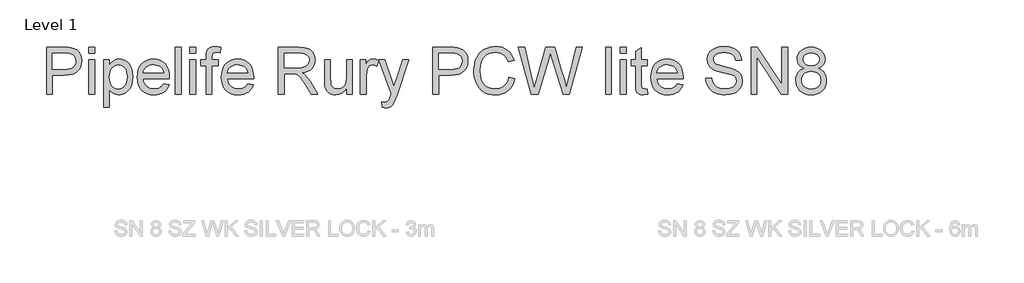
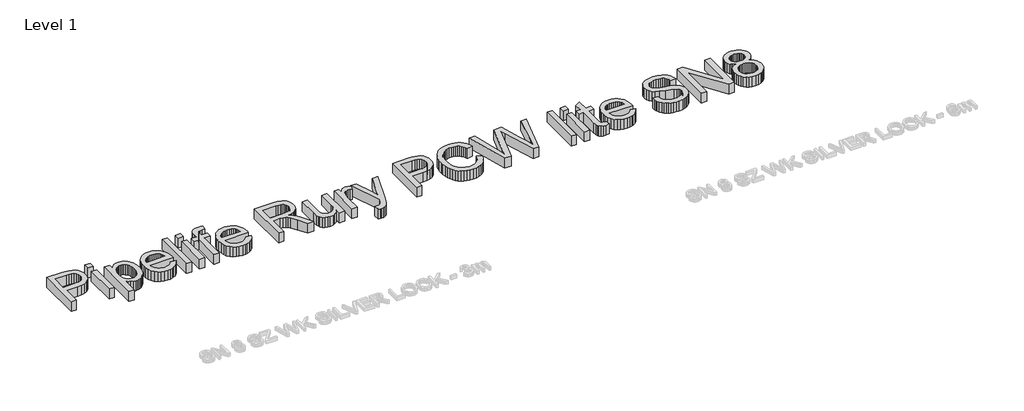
# One storey, part 7 of 8: 1 proxy.
"""IFC4 building model written with IfcOpenShell, lengths in millimetres."""

from ifc_helpers import new_model, si_unit, origin, origin_with_axes, place, context, project, spatial, polyline, outline, extrude, element, save

model = new_model("IFC4")

# Units and contexts
model_context = context("Model", 3, world=origin())
ifc_project = project(units=[si_unit("LENGTHUNIT", "METRE", prefix="MILLI")], contexts=[model_context])

# Site, building, storey
site = spatial("IfcSite", under=ifc_project)
building = spatial("IfcBuilding", under=site)
storey = spatial("IfcBuildingStorey", under=building, Name="Level 1", Elevation=0.0)

# Proxy
placement = place(None, origin())
element("IfcBuildingElementProxy", 1, Name="600mm Arial", ObjectType="600mm Arial", at=placement, inside=storey, context=model_context, shape_type="SweptSolid", body=[
    extrude(outline(polyline([(-16966.7426717, 3990.4626098), (-16966.7426717, 4593.2004707), (-16743.3647242, 4593.2004707), (-16691.3462101, 4591.7657309), (-16653.3072118, 4587.4615116), (-16613.152892, 4576.7377514), (-16580.0986947, 4559.2817508), (-16553.4824324, 4534.3025633), (-16532.6419174, 4501.0092427), (-16519.1774363, 4461.7378398), (-16514.689276, 4418.824405), (-16517.7197039, 4381.8246734), (-16526.8109877, 4347.7863917), (-16541.9631274, 4316.7095602), (-16563.176123, 4288.5941787), (-16592.2985814, 4265.2888543), (-16631.1791098, 4248.642194), (-16679.8177081, 4238.6541979), (-16738.2143763, 4235.3248658), (-16891.4004391, 4235.3248658), (-16891.4004391, 3990.4626098), (-16966.7426717, 3990.4626098)]), holes=[polyline([(-16891.4004391, 4310.6670984), (-16733.7997923, 4310.6670984), (-16697.5634158, 4312.3961438), (-16666.992422, 4317.5832799), (-16642.0868109, 4326.2285068), (-16622.8465826, 4338.3318245), (-16608.4899877, 4353.5713361), (-16598.2352771, 4371.625145), (-16592.0824507, 4392.4932512), (-16590.0315086, 4416.1756547), (-16594.8691569, 4450.0207982), (-16609.3821016, 4478.568441), (-16631.767721, 4500.0527496), (-16660.2233933, 4512.7078902), (-16689.2860709, 4516.5706511), (-16735.5656259, 4517.8582381), (-16891.4004391, 4517.8582381), (-16891.4004391, 4310.6670984)])]), origin_with_axes(), (0.0, 0.0, 1.0), 150.0),
    extrude(outline(polyline([(-16420.5114852, 3990.4626098), (-16420.5114852, 4433.0982264), (-16345.1692526, 4433.0982264), (-16345.1692526, 3990.4626098), (-16420.5114852, 3990.4626098)])), origin_with_axes(), (0.0, 0.0, 1.0), 150.0),
    extrude(outline(polyline([(-16420.5114852, 4517.8582381), (-16420.5114852, 4593.2004707), (-16345.1692526, 4593.2004707), (-16345.1692526, 4517.8582381), (-16420.5114852, 4517.8582381)])), origin_with_axes(), (0.0, 0.0, 1.0), 150.0),
    extrude(outline(polyline([(-16232.1559037, 3820.9425865), (-16232.1559037, 4433.0982264), (-16156.8136711, 4433.0982264), (-16156.8136711, 4359.2275218), (-16132.2391538, 4395.6662334), (-16104.7215806, 4421.6938846), (-16072.6422706, 4437.3104753), (-16034.3825431, 4442.5160055), (-16008.1065716, 4440.6949896), (-15983.4308868, 4435.231942), (-15960.3554886, 4426.1268626), (-15938.8803772, 4413.3797515), (-15919.4746019, 4397.3217024), (-15902.6072124, 4378.2838091), (-15888.2782087, 4356.2660717), (-15876.4875908, 4331.2684902), (-15860.7054532, 4275.7550971), (-15855.4447407, 4215.1649325), (-15861.3860349, 4150.730401), (-15868.8126526, 4121.0653166), (-15879.2099175, 4093.1016865), (-15892.4352753, 4067.570676), (-15908.3461716, 4045.2034507), (-15926.9426064, 4026.0000106), (-15948.2245798, 4009.9603556), (-15971.1482267, 3997.3098135), (-15994.6696817, 3988.273712), (-16018.788945, 3982.8520511), (-16043.5060166, 3981.0448308), (-16078.1421064, 3985.882479), (-16109.0625881, 4000.3954237), (-16135.5316977, 4022.3027965), (-16156.8136711, 4049.3237291), (-16156.8136711, 3820.9425865), (-16232.1559037, 3820.9425865)]), holes=[polyline([(-16156.8136711, 4208.248751), (-16154.7765246, 4171.9387981), (-16148.6650849, 4140.7056167), (-16138.4793522, 4114.5492068), (-16124.2193263, 4093.4695685), (-16107.0530327, 4077.2459725), (-16088.1484967, 4065.6576896), (-16067.5057182, 4058.7047199), (-16045.1246974, 4056.3870634), (-16022.4217797, 4058.7874934), (-16001.4019222, 4065.9887834), (-15982.0651249, 4077.9909335), (-15964.4113876, 4094.7939437), (-15949.7007063, 4116.6369371), (-15939.1930769, 4143.7590372), (-15932.8884992, 4176.1602439), (-15930.7869733, 4213.8405573), (-15932.8379154, 4249.8378105), (-15938.9907418, 4281.0158096), (-15949.2454524, 4307.3745546), (-15963.6020472, 4328.9140454), (-15980.8097276, 4345.6526762), (-15999.6176946, 4357.608841), (-16020.0259482, 4364.7825399), (-16042.0344886, 4367.1737729), (-16063.9740511, 4364.6307886), (-16084.6168295, 4357.0018357), (-16103.962824, 4344.2869143), (-16122.0120344, 4326.4860242), (-16137.2377504, 4303.8382889), (-16148.1132619, 4276.5828316), (-16154.6385688, 4244.7196523), (-16156.8136711, 4208.248751)])]), origin_with_axes(), (0.0, 0.0, 1.0), 150.0),
    extrude(outline(polyline([(-15460.7809362, 4122.3115169), (-15386.9102316, 4112.8937378), (-15398.2363985, 4083.3068284), (-15413.5264939, 4057.233192), (-15432.7805179, 4034.6728286), (-15455.9984703, 4015.6257383), (-15482.9412279, 4000.4965913), (-15513.3696674, 3989.6900576), (-15547.2837889, 3983.2061375), (-15584.6835922, 3981.0448308), (-15631.4321967, 3984.7742345), (-15673.0856356, 3995.9624457), (-15709.6439089, 4014.6094643), (-15741.1070165, 4040.7152904), (-15766.4081008, 4073.553357), (-15784.4803038, 4112.3970971), (-15795.3236256, 4157.2465109), (-15798.9380662, 4208.1015982), (-15795.2868374, 4260.6811323), (-15784.333151, 4307.0250667), (-15766.077007, 4347.1334012), (-15740.5184054, 4381.0061359), (-15709.1380712, 4407.9167039), (-15673.4167294, 4427.1385381), (-15633.3543802, 4438.6716387), (-15588.9510233, 4442.5160055), (-15545.9778078, 4438.6808357), (-15507.1156735, 4427.1753263), (-15472.3646205, 4407.9994773), (-15441.7246489, 4381.1532887), (-15416.7132717, 4347.3541304), (-15398.8480023, 4307.3193723), (-15388.1288407, 4261.0490143), (-15384.5557868, 4208.5430566), (-15384.9972452, 4188.2359704), (-15723.5958336, 4188.2359704), (-15719.2318334, 4158.1708144), (-15710.5544168, 4131.8396606), (-15697.5635839, 4109.242509), (-15680.2593345, 4090.3793597), (-15659.598162, 4075.5077301), (-15636.5365594, 4064.8851375), (-15611.0745268, 4058.5115819), (-15583.2120642, 4056.3870634), (-15543.1129267, 4060.3234007), (-15509.3413596, 4072.1324128), (-15481.8973627, 4092.5498635), (-15460.7809362, 4122.3115169)]), holes=[polyline([(-15723.5958336, 4263.5782031), (-15459.8980194, 4263.5782031), (-15470.0883507, 4303.3830349), (-15478.8531392, 4319.0364138), (-15490.064343, 4331.8571014), (-15510.6105525, 4347.3081452), (-15533.9894533, 4358.344605), (-15560.2010454, 4364.9664809), (-15589.2453289, 4367.1737729), (-15615.7374311, 4365.4125378), (-15640.0314384, 4360.1288327), (-15662.1273507, 4351.3226574), (-15682.0251681, 4338.9940121), (-15698.7224122, 4323.7131137), (-15711.2166044, 4306.0501794), (-15719.5077449, 4286.0052092), (-15723.5958336, 4263.5782031)])]), origin_with_axes(), (0.0, 0.0, 1.0), 150.0),
    extrude(outline(polyline([(-15309.2135542, 3990.4626098), (-15309.2135542, 4593.2004707), (-15233.8713216, 4593.2004707), (-15233.8713216, 3990.4626098), (-15309.2135542, 3990.4626098)])), origin_with_axes(), (0.0, 0.0, 1.0), 150.0),
    extrude(outline(polyline([(-15120.8579727, 4517.8582381), (-15120.8579727, 4593.2004707), (-15045.5157401, 4593.2004707), (-15045.5157401, 4517.8582381), (-15120.8579727, 4517.8582381)])), origin_with_axes(), (0.0, 0.0, 1.0), 150.0),
    extrude(outline(polyline([(-15120.8579727, 3990.4626098), (-15120.8579727, 4433.0982264), (-15045.5157401, 4433.0982264), (-15045.5157401, 3990.4626098), (-15120.8579727, 3990.4626098)])), origin_with_axes(), (0.0, 0.0, 1.0), 150.0),
    extrude(outline(polyline([(-14913.666833, 3990.4626098), (-14913.666833, 4357.7559938), (-14979.5912865, 4357.7559938), (-14979.5912865, 4433.0982264), (-14913.666833, 4433.0982264), (-14913.666833, 4477.6855242), (-14911.6802702, 4514.5840884), (-14905.7205819, 4540.519769), (-14890.5638437, 4565.5725329), (-14867.1665488, 4585.4013724), (-14834.4250512, 4598.3140305), (-14791.235705, 4602.6182498), (-14758.5309956, 4600.5581106), (-14722.5153483, 4594.3776931), (-14733.5518082, 4523.74435), (-14776.9618836, 4527.2760172), (-14805.6014969, 4524.1490202), (-14824.418661, 4514.7680294), (-14834.8481155, 4496.8521762), (-14838.3246004, 4468.1205924), (-14838.3246004, 4433.0982264), (-14753.5645887, 4433.0982264), (-14753.5645887, 4357.7559938), (-14838.3246004, 4357.7559938), (-14838.3246004, 3990.4626098), (-14913.666833, 3990.4626098)])), origin_with_axes(), (0.0, 0.0, 1.0), 150.0),
    extrude(outline(polyline([(-14377.7363424, 4122.3115169), (-14303.8656378, 4112.8937378), (-14315.1918047, 4083.3068284), (-14330.4819001, 4057.233192), (-14349.7359241, 4034.6728286), (-14372.9538765, 4015.6257383), (-14399.8966341, 4000.4965913), (-14430.3250736, 3989.6900576), (-14464.2391951, 3983.2061375), (-14501.6389984, 3981.0448308), (-14548.3876029, 3984.7742345), (-14590.0410418, 3995.9624457), (-14626.5993151, 4014.6094643), (-14658.0624227, 4040.7152904), (-14683.363507, 4073.553357), (-14701.43571, 4112.3970971), (-14712.2790318, 4157.2465109), (-14715.8934724, 4208.1015982), (-14712.2422436, 4260.6811323), (-14701.2885572, 4307.0250667), (-14683.0324132, 4347.1334012), (-14657.4738116, 4381.0061359), (-14626.0934774, 4407.9167039), (-14590.3721356, 4427.1385381), (-14550.3097864, 4438.6716387), (-14505.9064295, 4442.5160055), (-14462.933214, 4438.6808357), (-14424.0710797, 4427.1753263), (-14389.3200267, 4407.9994773), (-14358.6800551, 4381.1532887), (-14333.6686779, 4347.3541304), (-14315.8034085, 4307.3193723), (-14305.0842469, 4261.0490143), (-14301.511193, 4208.5430566), (-14301.9526514, 4188.2359704), (-14640.5512398, 4188.2359704), (-14636.1872396, 4158.1708144), (-14627.509823, 4131.8396606), (-14614.5189901, 4109.242509), (-14597.2147407, 4090.3793597), (-14576.5535682, 4075.5077301), (-14553.4919656, 4064.8851375), (-14528.029933, 4058.5115819), (-14500.1674704, 4056.3870634), (-14460.0683329, 4060.3234007), (-14426.2967658, 4072.1324128), (-14398.8527689, 4092.5498635), (-14377.7363424, 4122.3115169)]), holes=[polyline([(-14640.5512398, 4263.5782031), (-14376.8534256, 4263.5782031), (-14387.0437569, 4303.3830349), (-14395.8085454, 4319.0364138), (-14407.0197492, 4331.8571014), (-14427.5659587, 4347.3081452), (-14450.9448595, 4358.344605), (-14477.1564516, 4364.9664809), (-14506.2007351, 4367.1737729), (-14532.6928373, 4365.4125378), (-14556.9868446, 4360.1288327), (-14579.0827569, 4351.3226574), (-14598.9805743, 4338.9940121), (-14615.6778184, 4323.7131137), (-14628.1720106, 4306.0501794), (-14636.4631511, 4286.0052092), (-14640.5512398, 4263.5782031)])]), origin_with_axes(), (0.0, 0.0, 1.0), 150.0),
    extrude(outline(polyline([(-13981.3067044, 3990.4626098), (-13981.3067044, 4593.2004707), (-13721.5820158, 4593.2004707), (-13651.7764072, 4589.1353747), (-13600.9902978, 4576.9400865), (-13581.3913845, 4567.246396), (-13563.8710045, 4554.4257084), (-13548.4291577, 4538.4780239), (-13535.0658443, 4519.4033425), (-13524.2823033, 4498.2271351), (-13516.579774, 4475.974873), (-13511.9582565, 4452.6465559), (-13510.4177506, 4428.2421841), (-13512.9699319, 4397.2849142), (-13520.626476, 4368.8660301), (-13533.3873827, 4342.9855317), (-13551.2526521, 4319.6434191), (-13574.4522104, 4299.5846533), (-13603.2159839, 4283.5541954), (-13637.5439726, 4271.5520453), (-13677.4361764, 4263.5782031), (-13652.6041417, 4247.3546071), (-13634.6147122, 4231.3517403), (-13603.7494128, 4194.7474818), (-13573.546301, 4153.8022157), (-13473.0409399, 3990.4626098), (-13560.5968547, 3990.4626098), (-13639.0292961, 4115.3953354), (-13695.6831234, 4198.0952079), (-13716.7443676, 4222.2098727), (-13735.4879552, 4237.1642758), (-13771.3196616, 4251.5116736), (-13815.0240426, 4254.160424), (-13905.9644718, 4254.160424), (-13905.9644718, 3990.4626098), (-13981.3067044, 3990.4626098)]), holes=[polyline([(-13905.9644718, 4329.5026566), (-13737.3273652, 4329.5026566), (-13688.8957006, 4332.1698011), (-13651.3165547, 4340.1712344), (-13623.0264293, 4354.0403857), (-13602.4618258, 4374.3106836), (-13589.9354439, 4398.8300186), (-13585.7599832, 4425.4462809), (-13587.7511445, 4444.7141004), (-13593.7246284, 4462.1976922), (-13603.6804349, 4477.8970564), (-13617.618564, 4491.8121929), (-13635.8609124, 4503.2073377), (-13658.729377, 4511.3467268), (-13686.2239576, 4516.2303603), (-13718.3446543, 4517.8582381), (-13905.9644718, 4517.8582381), (-13905.9644718, 4329.5026566)])]), origin_with_axes(), (0.0, 0.0, 1.0), 150.0),
    extrude(outline(polyline([(-13105.4532503, 3990.4626098), (-13105.4532503, 4066.5406064), (-13132.7133061, 4029.1362046), (-13164.4615223, 4002.4187747), (-13200.6978989, 3986.3883167), (-13241.4224357, 3981.0448308), (-13278.1186647, 3984.7972271), (-13312.276508, 3996.0544162), (-13340.9345154, 4012.9769879), (-13361.131237, 4033.7255325), (-13374.7244767, 4058.9254491), (-13383.5720387, 4089.2021373), (-13387.9866226, 4159.2468692), (-13387.9866226, 4433.0982264), (-13312.64439, 4433.0982264), (-13312.64439, 4194.7106936), (-13311.5039558, 4147.033187), (-13308.0826532, 4117.896933), (-13297.1013757, 4092.273952), (-13278.2842116, 4072.7946004), (-13252.8819599, 4060.4889476), (-13222.1454192, 4056.3870634), (-13189.6430449, 4060.5809181), (-13159.237598, 4073.1624823), (-13134.16644, 4092.9729278), (-13117.6669325, 4118.8534261), (-13108.5066709, 4154.2988564), (-13105.4532503, 4202.8040974), (-13105.4532503, 4433.0982264), (-13030.1110177, 4433.0982264), (-13030.1110177, 3990.4626098), (-13105.4532503, 3990.4626098)])), origin_with_axes(), (0.0, 0.0, 1.0), 150.0),
    extrude(outline(polyline([(-12926.5154479, 3990.4626098), (-12926.5154479, 4433.0982264), (-12860.5909943, 4433.0982264), (-12860.5909943, 4367.6152313), (-12836.2372062, 4405.5806532), (-12813.7964045, 4427.9478785), (-12791.2820264, 4438.8739738), (-12766.7075091, 4442.5160055), (-12729.1835456, 4436.70347), (-12691.0709709, 4419.2658634), (-12716.2340994, 4351.7227291), (-12742.7216031, 4363.3110119), (-12769.2091067, 4367.1737729), (-12791.7050907, 4363.4581647), (-12811.8098418, 4352.3113403), (-12828.0518318, 4334.5794281), (-12838.959533, 4311.1085568), (-12848.1197947, 4269.0228566), (-12851.1732152, 4223.1111836), (-12851.1732152, 3990.4626098), (-12926.5154479, 3990.4626098)])), origin_with_axes(), (0.0, 0.0, 1.0), 150.0),
    extrude(outline(polyline([(-12643.9820756, 3820.9425865), (-12653.3998546, 3893.4889159), (-12615.1401271, 3886.86704), (-12595.016982, 3888.9455733), (-12579.3819972, 3895.1811731), (-12567.2051032, 3905.1323811), (-12557.4562303, 3918.3577388), (-12536.8548386, 3973.8343436), (-12530.9687266, 3992.0812906), (-12691.0709709, 4433.0982264), (-12611.60846, 4433.0982264), (-12526.7012955, 4187.3530537), (-12497.1235831, 4089.0549845), (-12467.5458707, 4175.8751354), (-12380.2842614, 4433.0982264), (-12301.4103616, 4433.0982264), (-12455.4793412, 3979.8676084), (-12495.5049023, 3881.5695393), (-12515.9959294, 3850.1892051), (-12539.2092833, 3828.4473792), (-12566.1750336, 3815.7554503), (-12597.9232498, 3811.5248074), (-12619.7386521, 3813.8792521), (-12643.9820756, 3820.9425865)])), origin_with_axes(), (0.0, 0.0, 1.0), 150.0),
    extrude(outline(polyline([(-11994.1553193, 3990.4626098), (-11994.1553193, 4593.2004707), (-11770.7773718, 4593.2004707), (-11718.7588577, 4591.7657309), (-11680.7198594, 4587.4615116), (-11640.5655396, 4576.7377514), (-11607.5113423, 4559.2817508), (-11580.89508, 4534.3025633), (-11560.054565, 4501.0092427), (-11546.5900839, 4461.7378398), (-11542.1019236, 4418.824405), (-11545.1323515, 4381.8246734), (-11554.2236353, 4347.7863917), (-11569.375775, 4316.7095602), (-11590.5887706, 4288.5941787), (-11619.711229, 4265.2888543), (-11658.5917574, 4248.642194), (-11707.2303557, 4238.6541979), (-11765.6270239, 4235.3248658), (-11918.8130867, 4235.3248658), (-11918.8130867, 3990.4626098), (-11994.1553193, 3990.4626098)]), holes=[polyline([(-11918.8130867, 4310.6670984), (-11761.2124399, 4310.6670984), (-11724.9760634, 4312.3961438), (-11694.4050696, 4317.5832799), (-11669.4994585, 4326.2285068), (-11650.2592302, 4338.3318245), (-11635.9026353, 4353.5713361), (-11625.6479247, 4371.625145), (-11619.4950983, 4392.4932512), (-11617.4441562, 4416.1756547), (-11622.2818045, 4450.0207982), (-11636.7947492, 4478.568441), (-11659.1803686, 4500.0527496), (-11687.6360409, 4512.7078902), (-11716.6987185, 4516.5706511), (-11762.9782735, 4517.8582381), (-11918.8130867, 4517.8582381), (-11918.8130867, 4310.6670984)])]), origin_with_axes(), (0.0, 0.0, 1.0), 150.0),
    extrude(outline(polyline([(-11014.7062953, 4204.7170838), (-10939.3640627, 4185.2929145), (-10954.2724806, 4138.4385439), (-10974.1289112, 4097.4978763), (-10998.9333548, 4062.4709119), (-11028.6858111, 4033.3576505), (-11062.7148957, 4010.4707918), (-11100.3492238, 3994.1230357), (-11141.5887955, 3984.314382), (-11186.4336107, 3981.0448308), (-11232.3774733, 3983.5188372), (-11273.8239786, 3990.9408564), (-11310.7731265, 4003.3108885), (-11343.224917, 4020.6289334), (-11371.625407, 4042.6374738), (-11396.4206535, 4069.0789922), (-11417.6106564, 4099.9534886), (-11435.1954158, 4135.2609631), (-11449.0047862, 4173.4747054), (-11458.8686222, 4213.0680051), (-11464.7869238, 4254.0408623), (-11466.759691, 4296.393277), (-11464.5294064, 4341.8359005), (-11457.8385526, 4384.2802857), (-11446.6871296, 4423.7264326), (-11431.0751375, 4460.1743413), (-11411.352064, 4493.0216049), (-11387.8673971, 4521.6658168), (-11360.6211369, 4546.1069768), (-11329.6132832, 4566.3450851), (-11295.8968983, 4582.2145946), (-11260.5250445, 4593.5499586), (-11223.4977217, 4600.351177), (-11184.8149299, 4602.6182498), (-11141.7221527, 4599.6843909), (-11102.2070279, 4590.8828142), (-11066.2695555, 4576.2135196), (-11033.9097355, 4555.6765072), (-11005.6609968, 4529.814403), (-10982.0567682, 4499.1698328), (-10963.0970499, 4463.7427966), (-10948.7818418, 4423.5332946), (-11024.1240744, 4405.5806532), (-11035.9882687, 4435.2089494), (-11050.2436961, 4460.5238292), (-11066.8903563, 4481.5252926), (-11085.9282496, 4498.2133396), (-11107.4677404, 4510.928261), (-11131.6191934, 4520.0103478), (-11158.3826085, 4525.4595998), (-11187.7579858, 4527.2760172), (-11221.5571442, 4525.2618633), (-11252.4684288, 4519.2194015), (-11280.4918398, 4509.1486319), (-11305.6273771, 4495.0495544), (-11327.5577425, 4477.5567655), (-11345.9656379, 4457.3048617), (-11360.8510631, 4434.2938429), (-11372.2140182, 4408.5237092), (-11386.6165983, 4353.3781981), (-11391.4174584, 4296.5404298), (-11385.7336816, 4226.9371563), (-11378.6289605, 4195.6671867), (-11368.6823511, 4166.7516619), (-11355.7329048, 4140.7653975), (-11339.6196735, 4118.2832091), (-11320.3426569, 4099.3050966), (-11297.9018552, 4083.8310602), (-11273.3871187, 4071.8243116), (-11247.888298, 4063.2480626), (-11221.4053928, 4058.1023132), (-11193.9384034, 4056.3870634), (-11161.1831102, 4058.723114), (-11131.0489763, 4065.731266), (-11103.5360016, 4077.4115194), (-11078.6441861, 4093.7638741), (-11056.962141, 4114.7147537), (-11039.0784775, 4140.1905819), (-11024.9931956, 4170.1913586), (-11014.7062953, 4204.7170838)])), origin_with_axes(), (0.0, 0.0, 1.0), 150.0),
    extrude(outline(polyline([(-10727.9054919, 3990.4626098), (-10892.2751673, 4593.2004707), (-10814.5784899, 4593.2004707), (-10719.2234768, 4197.0651383), (-10689.7929172, 4074.7811631), (-10658.3022184, 4182.9384697), (-10538.8141464, 4593.2004707), (-10426.830867, 4593.2004707), (-10340.0107162, 4295.8046658), (-10302.8178464, 4185.4400673), (-10275.4106378, 4074.7811631), (-10246.862995, 4193.5334712), (-10150.625065, 4593.2004707), (-10072.9283877, 4593.2004707), (-10237.4452159, 3990.4626098), (-10317.9377965, 3990.4626098), (-10462.4418442, 4455.4654517), (-10482.6017775, 4520.3598357), (-10505.2633084, 4442.2216999), (-10636.9650627, 3990.4626098), (-10727.9054919, 3990.4626098)])), origin_with_axes(), (0.0, 0.0, 1.0), 150.0),
    extrude(outline(polyline([(-9771.5594572, 3990.4626098), (-9771.5594572, 4593.2004707), (-9696.2172246, 4593.2004707), (-9696.2172246, 3990.4626098), (-9771.5594572, 3990.4626098)])), origin_with_axes(), (0.0, 0.0, 1.0), 150.0),
    extrude(outline(polyline([(-9583.2038757, 4517.8582381), (-9583.2038757, 4593.2004707), (-9507.8616431, 4593.2004707), (-9507.8616431, 4517.8582381), (-9583.2038757, 4517.8582381)])), origin_with_axes(), (0.0, 0.0, 1.0), 150.0),
    extrude(outline(polyline([(-9583.2038757, 3990.4626098), (-9583.2038757, 4433.0982264), (-9507.8616431, 4433.0982264), (-9507.8616431, 3990.4626098), (-9583.2038757, 3990.4626098)])), origin_with_axes(), (0.0, 0.0, 1.0), 150.0),
    extrude(outline(polyline([(-9234.7460499, 4053.2968546), (-9225.3282708, 3988.2553179), (-9281.6877924, 3981.0448308), (-9317.8505926, 3984.1718277), (-9344.8163428, 3993.5528186), (-9363.8726302, 4008.010581), (-9376.3070416, 4026.3678926), (-9383.1496467, 4057.8953795), (-9385.4305151, 4111.8636682), (-9385.4305151, 4357.7559938), (-9441.9371895, 4357.7559938), (-9441.9371895, 4433.0982264), (-9385.4305151, 4433.0982264), (-9385.4305151, 4540.6669218), (-9310.0882825, 4584.959914), (-9310.0882825, 4433.0982264), (-9234.7460499, 4433.0982264), (-9234.7460499, 4357.7559938), (-9310.0882825, 4357.7559938), (-9310.0882825, 4114.0709602), (-9306.1151569, 4075.2226215), (-9293.2392871, 4061.4638349), (-9282.3683741, 4057.6562563), (-9267.5611238, 4056.3870634), (-9234.7460499, 4053.2968546)])), origin_with_axes(), (0.0, 0.0, 1.0), 150.0),
    extrude(outline(polyline([(-8849.5000245, 4122.3115169), (-8775.6293199, 4112.8937378), (-8786.9554868, 4083.3068284), (-8802.2455822, 4057.233192), (-8821.4996061, 4034.6728286), (-8844.7175586, 4015.6257383), (-8871.6603162, 4000.4965913), (-8902.0887557, 3989.6900576), (-8936.0028771, 3983.2061375), (-8973.4026805, 3981.0448308), (-9020.151285, 3984.7742345), (-9061.8047239, 3995.9624457), (-9098.3629972, 4014.6094643), (-9129.8261048, 4040.7152904), (-9155.127189, 4073.553357), (-9173.1993921, 4112.3970971), (-9184.0427139, 4157.2465109), (-9187.6571545, 4208.1015982), (-9184.0059257, 4260.6811323), (-9173.0522393, 4307.0250667), (-9154.7960953, 4347.1334012), (-9129.2374936, 4381.0061359), (-9097.8571594, 4407.9167039), (-9062.1358177, 4427.1385381), (-9022.0734684, 4438.6716387), (-8977.6701116, 4442.5160055), (-8934.6968961, 4438.6808357), (-8895.8347618, 4427.1753263), (-8861.0837088, 4407.9994773), (-8830.4437372, 4381.1532887), (-8805.43236, 4347.3541304), (-8787.5670906, 4307.3193723), (-8776.847929, 4261.0490143), (-8773.2748751, 4208.5430566), (-8773.7163335, 4188.2359704), (-9112.3149219, 4188.2359704), (-9107.9509217, 4158.1708144), (-9099.2735051, 4131.8396606), (-9086.2826722, 4109.242509), (-9068.9784228, 4090.3793597), (-9048.3172503, 4075.5077301), (-9025.2556477, 4064.8851375), (-8999.7936151, 4058.5115819), (-8971.9311525, 4056.3870634), (-8931.832015, 4060.3234007), (-8898.0604479, 4072.1324128), (-8870.616451, 4092.5498635), (-8849.5000245, 4122.3115169)]), holes=[polyline([(-9112.3149219, 4263.5782031), (-8848.6171077, 4263.5782031), (-8858.807439, 4303.3830349), (-8867.5722275, 4319.0364138), (-8878.7834313, 4331.8571014), (-8899.3296408, 4347.3081452), (-8922.7085415, 4358.344605), (-8948.9201337, 4364.9664809), (-8977.9644172, 4367.1737729), (-9004.4565194, 4365.4125378), (-9028.7505267, 4360.1288327), (-9050.846439, 4351.3226574), (-9070.7442564, 4338.9940121), (-9087.4415005, 4323.7131137), (-9099.9356927, 4306.0501794), (-9108.2268332, 4286.0052092), (-9112.3149219, 4263.5782031)])]), origin_with_axes(), (0.0, 0.0, 1.0), 150.0),
    extrude(outline(polyline([(-8481.3237237, 4197.6537495), (-8405.9814911, 4197.6537495), (-8397.3362642, 4155.8439608), (-8381.7012794, 4122.2379405), (-8357.3107032, 4095.5664959), (-8322.3987018, 4074.5604339), (-8279.7243904, 4060.930406), (-8232.0468838, 4056.3870634), (-8190.0715481, 4059.82676), (-8153.3201368, 4070.14585), (-8123.5400893, 4086.4798106), (-8102.4788451, 4107.9641191), (-8089.9524632, 4132.6306069), (-8085.7770025, 4158.5111052), (-8088.9039995, 4183.729416), (-8098.2849904, 4205.5264242), (-8117.3412777, 4224.1228591), (-8149.4941641, 4239.7394498), (-8259.196575, 4268.5078218), (-8331.2094756, 4287.545715), (-8377.2866955, 4305.6639033), (-8414.7922649, 4331.0109728), (-8441.3717391, 4361.7291194), (-8457.2090589, 4397.1561555), (-8462.4881656, 4436.6298936), (-8460.8556892, 4459.0660968), (-8455.9582602, 4480.7573389), (-8447.7958784, 4501.70362), (-8436.3685439, 4521.9049401), (-8421.8050154, 4540.5381631), (-8404.2340516, 4556.7801532), (-8383.6556525, 4570.6309103), (-8360.0698181, 4582.0904345), (-8307.0580226, 4597.486296), (-8248.3808444, 4602.6182498), (-8184.8108356, 4597.2471727), (-8129.1870779, 4581.1339413), (-8104.851684, 4569.1317912), (-8083.4961341, 4554.6096494), (-8065.1204285, 4537.567516), (-8049.724567, 4518.0053909), (-8037.4281113, 4496.4934912), (-8028.3506231, 4473.6020341), (-8022.4921023, 4449.3310195), (-8019.852549, 4423.6804474), (-8095.1947816, 4423.6804474), (-8100.2347649, 4447.7215357), (-8109.0271446, 4468.6356272), (-8121.5719206, 4486.4227216), (-8137.869093, 4501.0828191), (-8158.2221644, 4512.5423433), (-8182.9346374, 4520.7277177), (-8212.0065121, 4525.6389423), (-8245.4377884, 4527.2760172), (-8279.9359225, 4525.6573364), (-8309.4124674, 4520.8012941), (-8333.867423, 4512.7078902), (-8353.3007894, 4501.3771247), (-8368.1080397, 4487.7562939), (-8378.6846471, 4472.7926937), (-8385.0306115, 4456.4863243), (-8387.145933, 4438.8371856), (-8385.6468138, 4423.6528562), (-8381.1494564, 4409.8848725), (-8373.6538608, 4397.5332345), (-8363.1600269, 4386.5979422), (-8346.6421253, 4376.2420641), (-8320.6328682, 4365.7758213), (-8240.1402877, 4344.512242), (-8157.0725332, 4324.3155205), (-8106.8198526, 4306.6939729), (-8063.8696297, 4279.3603406), (-8047.2643561, 4263.2930945), (-8033.9056412, 4245.6255617), (-8023.637135, 4226.4497127), (-8016.3024877, 4205.857518), (-8010.4347699, 4160.4240916), (-8012.1224286, 4136.8566513), (-8017.1854045, 4113.9789897), (-8025.6236978, 4091.7911069), (-8037.4373084, 4070.2930028), (-8052.4193026, 4050.3170104), (-8070.3627469, 4032.6954629), (-8091.2676413, 4017.4283601), (-8115.1339857, 4004.515702), (-8141.267403, 3994.2471959), (-8168.9735157, 3986.9125486), (-8229.1038278, 3981.0448308), (-8267.6440654, 3982.6267233), (-8302.9193502, 3987.3724011), (-8334.9296823, 3995.281864), (-8363.6750617, 4006.355112), (-8389.3302323, 4020.6105393), (-8412.0699381, 4038.06654), (-8431.8941792, 4058.723114), (-8448.8029554, 4082.5802614), (-8462.4237862, 4108.86543), (-8472.3841912, 4136.8060675), (-8478.6841704, 4166.402174), (-8481.3237237, 4197.6537495)])), origin_with_axes(), (0.0, 0.0, 1.0), 150.0),
    extrude(outline(polyline([(-7897.421421, 3990.4626098), (-7897.421421, 4593.2004707), (-7816.7816876, 4593.2004707), (-7501.8746998, 4115.689641), (-7501.8746998, 4593.2004707), (-7426.5324672, 4593.2004707), (-7426.5324672, 3990.4626098), (-7507.1722005, 3990.4626098), (-7822.0791884, 4468.1205924), (-7822.0791884, 3990.4626098), (-7897.421421, 3990.4626098)])), origin_with_axes(), (0.0, 0.0, 1.0), 150.0),
    extrude(outline(polyline([(-7213.16091, 4322.4393223), (-7253.4991707, 4342.30495), (-7269.1571481, 4354.8865143), (-7281.8076903, 4369.2339121), (-7298.5279269, 4402.6743854), (-7304.1013392, 4442.0745471), (-7301.0663127, 4472.8018908), (-7291.9612333, 4500.9724545), (-7276.786101, 4526.5862385), (-7255.5409158, 4549.6432425), (-7229.2465502, 4568.6995299), (-7198.9238767, 4582.3111637), (-7164.5728954, 4590.478144), (-7126.1936063, 4593.2004707), (-7087.6303762, 4590.4137646), (-7053.0218775, 4582.0536463), (-7022.3681102, 4568.1201157), (-6995.6690744, 4548.6131729), (-6974.0376131, 4525.1055134), (-6958.5865693, 4499.1698328), (-6949.315943, 4470.8061309), (-6946.2257343, 4440.0144079), (-6951.7255701, 4401.8834391), (-6968.2250776, 4369.0131829), (-6980.6456934, 4354.7623541), (-6995.9081977, 4342.2497677), (-7034.9588715, 4322.4393223), (-7010.1958147, 4311.9041016), (-6988.587346, 4298.5453867), (-6970.1334654, 4282.3631774), (-6954.8341729, 4263.3574739), (-6942.8274243, 4241.9513403), (-6934.2511753, 4218.5678409), (-6929.1054259, 4193.2069759), (-6927.3901761, 4165.8687451), (-6930.7930846, 4128.2895993), (-6941.0018099, 4093.8374505), (-6958.0163522, 4062.5122986), (-6981.8367114, 4034.3141437), (-7011.2120887, 4011.0088193), (-7044.8916854, 3994.362159), (-7082.8755014, 3984.3741628), (-7125.1635367, 3981.0448308), (-7167.4515721, 3984.3879584), (-7205.4353881, 3994.4173413), (-7239.1149847, 4011.1329794), (-7268.490362, 4034.5348729), (-7292.3107212, 4062.9307644), (-7309.3252635, 4094.6283968), (-7319.5339889, 4129.6277701), (-7322.9368973, 4167.9288843), (-7321.1526696, 4196.5133153), (-7315.7999866, 4222.6697252), (-7306.8788482, 4246.3981139), (-7294.3892545, 4267.6984814), (-7278.6071169, 4286.1845517), (-7259.8083469, 4301.4700486), (-7237.9929446, 4313.5549721), (-7213.16091, 4322.4393223)]), holes=[polyline([(-7228.7591066, 4439.8672551), (-7227.089842, 4422.5951955), (-7222.0820483, 4406.9786048), (-7213.7357256, 4393.0174831), (-7202.0508737, 4380.7118303), (-7187.1746455, 4370.6686518), (-7169.2541938, 4363.4949529), (-7148.2895186, 4359.1907336), (-7124.2806199, 4357.7559938), (-7100.8649309, 4359.1815365), (-7080.3555097, 4363.4581647), (-7062.7523562, 4370.5858784), (-7048.0554705, 4380.5646775), (-7036.4671877, 4392.6128129), (-7028.1898428, 4405.9485352), (-7023.2234358, 4420.5718445), (-7021.5679669, 4436.4827408), (-7023.2786181, 4453.0144379), (-7028.410572, 4468.1757747), (-7036.9638284, 4481.966751), (-7048.9383873, 4494.3873668), (-7063.9663668, 4504.655873), (-7081.6798849, 4511.9905203), (-7102.0789415, 4516.3913087), (-7125.1635367, 4517.8582381), (-7148.4274744, 4516.4234983), (-7168.9231, 4512.119279), (-7186.6504137, 4504.9455801), (-7201.6094153, 4494.9024016), (-7213.4874052, 4482.8542663), (-7221.9716837, 4469.6656967), (-7227.0622508, 4455.336693), (-7228.7591066, 4439.8672551)]), polyline([(-7247.5946647, 4170.5776347), (-7244.4492736, 4141.7540803), (-7235.0131005, 4113.850231), (-7217.593888, 4089.514837), (-7190.4993791, 4071.3966488), (-7158.0521871, 4060.1394597), (-7124.5749255, 4056.3870634), (-7097.3332638, 4058.3598306), (-7073.2921754, 4064.2781322), (-7052.4516604, 4074.1419682), (-7034.8117187, 4087.9513386), (-7020.7770206, 4104.8049325), (-7010.7522362, 4123.801439), (-7004.7373656, 4144.9408581), (-7002.7324087, 4168.2231899), (-7004.8017449, 4191.8780022), (-7011.0097536, 4213.3990989), (-7021.3564347, 4232.7864801), (-7035.8417883, 4250.0401456), (-7053.9599765, 4264.2036024), (-7075.2051618, 4274.3203573), (-7099.5773439, 4280.3904102), (-7127.0765231, 4282.4137612), (-7153.9181132, 4280.4180014), (-7177.6419033, 4274.4307219), (-7198.2478936, 4264.4519228), (-7215.7360839, 4250.481604), (-7229.674213, 4233.513047), (-7239.6300195, 4214.5395331), (-7245.6035034, 4193.5610623), (-7247.5946647, 4170.5776347)])]), origin_with_axes(), (0.0, 0.0, 1.0), 150.0),
])

save(model, "model.ifc")
